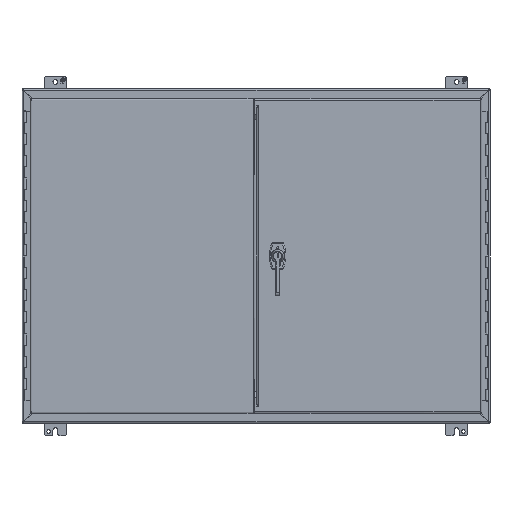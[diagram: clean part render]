
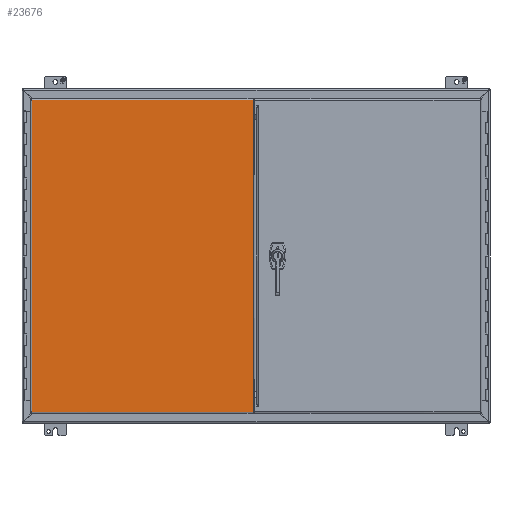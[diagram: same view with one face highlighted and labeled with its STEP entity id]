
A CAD part, front view. The second image highlights one B-rep face of the part: STEP entity #23676.
In plain terms, the highlighted planar face has unit normal (0, -1, 0).
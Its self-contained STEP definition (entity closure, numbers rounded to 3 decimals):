
#2882=ORIENTED_EDGE('',*,*,#9598,.T.);
#2883=ORIENTED_EDGE('',*,*,#9607,.T.);
#2884=ORIENTED_EDGE('',*,*,#9608,.F.);
#2885=ORIENTED_EDGE('',*,*,#9606,.T.);
#2886=ORIENTED_EDGE('',*,*,#9589,.T.);
#2887=ORIENTED_EDGE('',*,*,#9587,.T.);
#9587=EDGE_CURVE('',#12981,#12977,#15309,.T.);
#9589=EDGE_CURVE('',#12991,#12981,#15310,.T.);
#9598=EDGE_CURVE('',#12977,#12996,#15318,.T.);
#9606=EDGE_CURVE('',#13000,#12991,#15324,.T.);
#9607=EDGE_CURVE('',#12996,#13001,#15325,.T.);
#9608=EDGE_CURVE('',#13000,#13001,#15326,.T.);
#12977=VERTEX_POINT('',#34378);
#12981=VERTEX_POINT('',#34387);
#12991=VERTEX_POINT('',#34432);
#12996=VERTEX_POINT('',#34450);
#13000=VERTEX_POINT('',#34465);
#13001=VERTEX_POINT('',#34470);
#15309=LINE('',#34429,#17574);
#15310=LINE('',#34433,#17575);
#15318=LINE('',#34451,#17583);
#15324=LINE('',#34467,#17589);
#15325=LINE('',#34469,#17590);
#15326=LINE('',#34471,#17591);
#17574=VECTOR('',#27887,1000.);
#17575=VECTOR('',#27892,1000.);
#17583=VECTOR('',#27910,1000.);
#17589=VECTOR('',#27928,1000.);
#17590=VECTOR('',#27931,1000.);
#17591=VECTOR('',#27932,1000.);
#19738=EDGE_LOOP('',(#2882,#2883,#2884,#2885,#2886,#2887));
#21314=FACE_BOUND('',#19738,.T.);
#22850=PLANE('',#25486);
#23676=ADVANCED_FACE('',(#21314),#22850,.T.);
#25486=AXIS2_PLACEMENT_3D('',#34468,#27929,#27930);
#27887=DIRECTION('',(0.,0.,-1.));
#27892=DIRECTION('',(-1.,0.,0.));
#27910=DIRECTION('',(1.,0.,0.));
#27928=DIRECTION('',(0.,0.,1.));
#27929=DIRECTION('',(0.,-1.,0.));
#27930=DIRECTION('',(0.,0.,-1.));
#27931=DIRECTION('',(0.,0.,1.));
#27932=DIRECTION('',(0.,0.,-1.));
#34378=CARTESIAN_POINT('',(-251.955,0.,-431.343));
#34387=CARTESIAN_POINT('',(-251.955,0.,278.943));
#34429=CARTESIAN_POINT('',(-251.955,0.,278.943));
#34432=CARTESIAN_POINT('',(251.955,0.,278.943));
#34433=CARTESIAN_POINT('',(251.955,0.,278.943));
#34450=CARTESIAN_POINT('',(251.955,0.,-431.343));
#34451=CARTESIAN_POINT('',(-251.955,0.,-431.343));
#34465=CARTESIAN_POINT('',(251.955,0.,269.443));
#34467=CARTESIAN_POINT('',(251.955,0.,269.443));
#34468=CARTESIAN_POINT('',(-251.955,0.,-431.343));
#34469=CARTESIAN_POINT('',(251.955,0.,269.443));
#34470=CARTESIAN_POINT('',(251.955,0.,-421.843));
#34471=CARTESIAN_POINT('',(251.955,0.,269.443));
